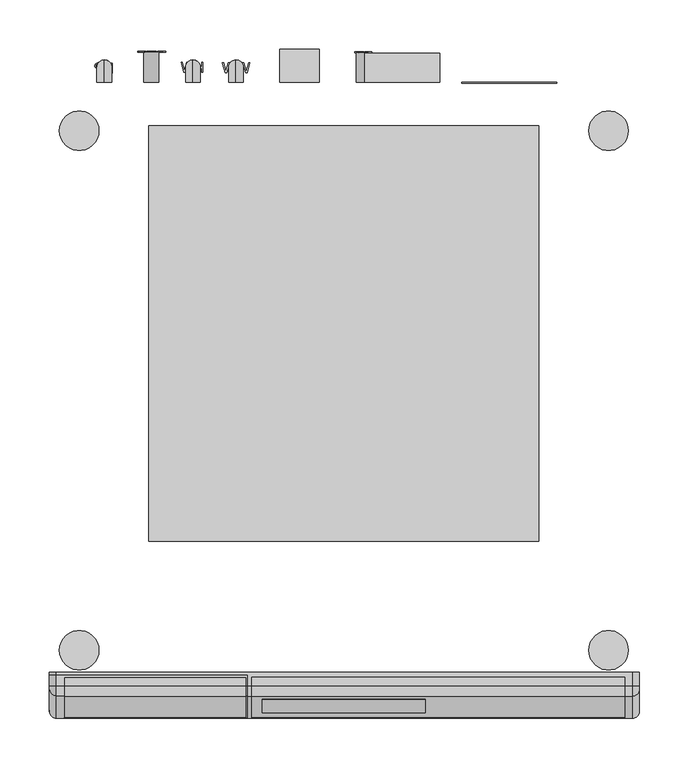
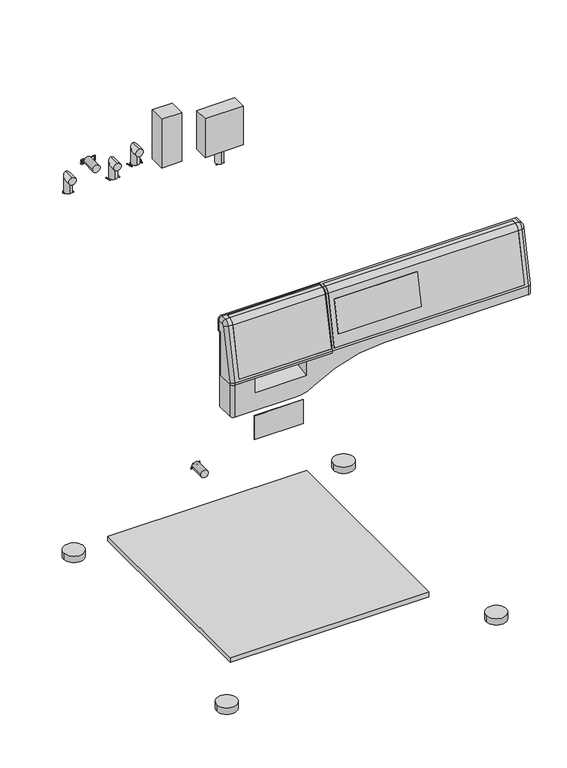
"""IFC4 building model written with IfcOpenShell, lengths in millimetres: proxy geometry, 11137250_RU_PWM507DP_LW : 51507151_RU_11137250_PWM507DP_LW."""

from ifc_helpers import new_model, si_unit, point, frame, frame_2d, origin, origin_with_axes, place, context, project, spatial, polyline, circle_curve, ellipse_curve, trimmed, segment, composite_curve, outline, extrude, source, transform, mapped, element, save
from ifc_brep_helpers import plane_surface, cylinder_surface, revolved_surface, advanced_brep


def specialty_equipment_1d82cdd6(model_context):
    return source(origin(), model_context, "Body", "SolidModel", [
        advanced_brep(
        [(-297.5, -634.5, 819.0), (-297.5, -640.0, 819.0), (-297.5, -640.0, 727.0), (-297.5, -671.0, 727.0), (-297.5, -671.0, 730.2642704), (-297.5, -648.6353607, 835.4816256), (-297.5, -644.8274781, 838.6486082), (-297.5, -634.5, 838.9190427), (-97.5, -655.4823939, 836.9370075), (-97.5, -678.0, 731.0), (-97.5, -678.0, 727.0), (-97.5, -640.0, 727.0), (-97.5, -640.0, 819.0), (-97.5, -634.5, 819.0), (-97.5, -634.5, 845.9214422), (-97.5, -645.0107168, 845.6462094), (-98.5, -655.4823939, 836.9370075), (-98.5, -677.1497738, 735.0), (-282.5, -677.1497738, 735.0), (-282.5, -655.4823939, 836.9370075), (-290.5, -655.4823939, 836.9370075), (-290.5, -678.0, 731.0), (-290.5, -678.0, 727.0), (-290.5, -634.5, 845.9214422), (-290.5, -645.0107168, 845.6462094), (-282.5, -645.0107168, 845.6462094), (-282.5, -636.5, 845.8690704), (-98.5, -636.5, 845.8690704), (-98.5, -645.0107168, 845.6462094), (-98.5, -654.5042463, 836.7290958), (-98.5, -676.1274332, 735.0), (-98.5, -636.5, 844.8687276), (-98.5, -644.9845398, 844.6465521), (-282.5, -654.5042463, 836.7290958), (-282.5, -644.9845398, 844.6465521), (-282.5, -636.5, 844.8687276), (-282.5, -676.1274332, 735.0)],
        [
            (0, 1),
            (1, 2),
            (2, 3),
            (3, 4),
            (4, 5),
            (5, 6, circle_curve(frame((-297.5, -644.7227703, 834.6499789), z_axis=(-1.0, 0.0, 0.0), x_axis=(0.0, -0.978147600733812, 0.20791169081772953)), 4.0)),
            (6, 7),
            (7, 0),
            (8, 9),
            (9, 10),
            (10, 11),
            (11, 12),
            (12, 13),
            (13, 14),
            (14, 15),
            (15, 8, circle_curve(frame((-97.5, -644.7227703, 834.6499789), z_axis=(1.0, 0.0, 0.0), x_axis=(0.0, 1.0, 0.0)), 11.0)),
            (8, 16),
            (16, 17),
            (17, 18),
            (18, 19),
            (19, 20),
            (20, 21),
            (21, 9),
            (21, 22),
            (22, 10),
            (22, 3, circle_curve(frame((-290.5, -671.0, 727.0), z_axis=(0.0, 0.0, -1.0), x_axis=(0.0, 1.0, 0.0)), 7.0)),
            (2, 11),
            (1, 12),
            (0, 13),
            (7, 23, ellipse_curve(frame((-290.5, -634.5, 838.9190427), z_axis=(0.0, 1.0, 0.0), x_axis=(0.0, 0.0, 1.0)), 7.0023995, 7.0)),
            (23, 14),
            (23, 24),
            (24, 25),
            (25, 26),
            (26, 27),
            (27, 28),
            (28, 15),
            (28, 16, circle_curve(frame((-98.5, -644.7227703, 834.6499789), z_axis=(1.0, 0.0, 0.0), x_axis=(0.0, 1.0, 0.0)), 11.0)),
            (19, 25, circle_curve(frame((-282.5, -644.7227703, 834.6499789), z_axis=(-1.0, 0.0, 0.0), x_axis=(0.0, 1.0, 0.0)), 11.0)),
            (24, 20, circle_curve(frame((-290.5, -644.7227703, 834.6499789), z_axis=(1.0, 0.0, 0.0), x_axis=(0.0, 1.0, 0.0)), 11.0)),
            (29, 30),
            (30, 17),
            (27, 31),
            (31, 32),
            (32, 29, circle_curve(frame((-98.5, -644.7227703, 834.6499789), z_axis=(1.0, 0.0, 0.0), x_axis=(0.0, 1.0, 0.0)), 10.0)),
            (33, 34, circle_curve(frame((-282.5, -644.7227703, 834.6499789), z_axis=(-1.0, 0.0, 0.0), x_axis=(0.0, 1.0, 0.0)), 10.0)),
            (34, 35),
            (35, 26),
            (18, 36),
            (36, 33),
            (29, 33),
            (36, 30),
            (32, 34),
            (31, 35),
            (6, 24, circle_curve(frame((-290.5, -644.8274781, 838.6486082), z_axis=(0.0, 0.9996573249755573, 0.026176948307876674), x_axis=(0.0, 0.026176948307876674, -0.9996573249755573)), 7.0)),
            (21, 4, ellipse_curve(frame((-290.5, -671.0, 730.2642704), z_axis=(0.0, -0.10452846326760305, -0.9945218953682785), x_axis=(0.0, -0.9945218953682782, 0.1045284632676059)), 7.038558, 7.0)),
            (20, 5, circle_curve(frame((-290.5, -648.6353607, 835.4816256), z_axis=(0.0, -0.2079116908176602, -0.9781476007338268), x_axis=(0.0, 0.9781476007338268, -0.2079116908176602)), 7.0)),
        ],
        [
            plane_surface(frame((-297.5, -655.4823939, 836.9370075), z_axis=(-1.0, 0.0, 0.0), x_axis=(0.0, 0.20791169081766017, 0.9781476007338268))),
            plane_surface(frame((-97.5, -655.4823939, 836.9370075), z_axis=(1.0, 0.0, 0.0), x_axis=(0.0, -0.20791169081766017, -0.9781476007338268))),
            plane_surface(frame((-97.5, -655.4823939, 836.9370075), z_axis=(0.0, -0.9781476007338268, 0.20791169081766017), x_axis=(-1.0, 0.0, 0.0))),
            plane_surface(frame((-97.5, -678.0, 731.0), z_axis=(0.0, -1.0, 0.0), x_axis=(-1.0, 0.0, 0.0))),
            plane_surface(frame((-97.5, -678.0, 727.0), z_axis=(0.0, 0.0, -1.0), x_axis=(-1.0, 0.0, 0.0))),
            plane_surface(frame((-97.5, -640.0, 727.0), z_axis=(0.0, 1.0, 0.0), x_axis=(-1.0, 0.0, 0.0))),
            plane_surface(frame((-97.5, -640.0, 819.0), z_axis=(0.0, 0.0, -1.0), x_axis=(-1.0, 0.0, 0.0))),
            plane_surface(frame((-97.5, -634.5, 819.0), z_axis=(0.0, 1.0, 0.0), x_axis=(-1.0, 0.0, 0.0))),
            plane_surface(frame((-97.5, -634.5, 845.9214422), z_axis=(0.0, -0.02617694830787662, 0.9996573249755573), x_axis=(-1.0, 0.0, 0.0))),
            cylinder_surface(frame((-297.5, -644.7227703, 834.6499789), z_axis=(1.0, 0.0, 0.0), x_axis=(0.0, 1.0, 0.0)), 11.0),
            plane_surface(frame((-98.5, -634.7227703, 834.6499789), z_axis=(-1.0, 0.0, 0.0), x_axis=(0.0, 0.0, -1.0))),
            plane_surface(frame((-282.5, -634.7227703, 834.6499789), z_axis=(1.0, 0.0, 0.0), x_axis=(0.0, 0.0, 1.0))),
            plane_surface(frame((-98.5, -676.1274332, 735.0), z_axis=(0.0, -0.9781476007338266, 0.2079116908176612), x_axis=(-1.0, 0.0, 0.0))),
            cylinder_surface(frame((-282.5, -644.7227703, 834.6499789), z_axis=(-1.0, 0.0, 0.0), x_axis=(0.0, 1.0, 0.0)), 10.0),
            plane_surface(frame((-98.5, -644.9845398, 844.6465521), z_axis=(0.0, -0.026176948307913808, 0.9996573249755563), x_axis=(-1.0, 0.0, 0.0))),
            plane_surface(frame((-98.5, -636.5, 844.8687276), z_axis=(0.0, -1.0, 0.0), x_axis=(-1.0, 0.0, 0.0))),
            plane_surface(frame((-98.5, -677.1497738, 735.0), z_axis=(0.0, 0.0, 1.0), x_axis=(-1.0, 0.0, 0.0))),
            cylinder_surface(frame((-290.5, -644.8274781, 838.6486082), z_axis=(0.0, 0.9996573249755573, 0.026176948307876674), x_axis=(0.0, 0.026176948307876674, -0.9996573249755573)), 7.0),
            cylinder_surface(frame((-290.5, -671.0, 727.0), z_axis=(0.0, 0.0, 1.0), x_axis=(0.0, 1.0, 0.0)), 7.0),
            cylinder_surface(frame((-290.5, -671.1529668, 729.5446182), z_axis=(0.0, 0.2079116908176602, 0.9781476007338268), x_axis=(0.0, 0.9781476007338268, -0.2079116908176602)), 7.0),
            revolved_surface(trimmed(ellipse_curve(frame((-290.5, -648.6353607, 835.4816256), z_axis=(0.0, -0.20791169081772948, -0.978147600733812), x_axis=(0.0, 0.978147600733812, -0.20791169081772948)), 7.0, 7.0), [point((-290.5, -655.4823939, 836.9370075))], [point((-297.5, -648.6353607, 835.4816256))], True, "CARTESIAN"), (-297.5, -644.7227703, 834.6499789), (-1.0, 0.0, 0.0)),
        ],
        [
            (0, [[1, 2, 3, 4, 5, 6, 7, 8]]),
            (1, [[9, 10, 11, 12, 13, 14, 15, 16]]),
            (2, [[-9, 17, 18, 19, 20, 21, 22, 23]]),
            (3, [[-10, -23, 24, 25]]),
            (4, [[-11, -25, 26, -3, 27]]),
            (5, [[-2, 28, -12, -27]]),
            (6, [[-1, 29, -13, -28]]),
            (7, [[-14, -29, -8, 30, 31]]),
            (8, [[-15, -31, 32, 33, 34, 35, 36, 37]]),
            (9, [[-16, -37, 38, -17]]),
            (9, [[39, -33, 40, -21]]),
            (10, [[41, 42, -18, -38, -36, 43, 44, 45]]),
            (11, [[46, 47, 48, -34, -39, -20, 49, 50]]),
            (12, [[-41, 51, -50, 52]]),
            (13, [[-45, 53, -46, -51]]),
            (14, [[-44, 54, -47, -53]]),
            (15, [[-43, -35, -48, -54]]),
            (16, [[-42, -52, -49, -19]]),
            (17, [[55, -32, -30, -7]]),
            (18, [[56, -4, -26, -24]]),
            (19, [[-56, -22, 57, -5]]),
            (20, [[-57, -40, -55, -6]]),
        ],
    ),
        extrude(outline(polyline([(-671.2386322, 758.0), (-672.2609728, 758.0), (-658.4447963, 823.0), (-657.4224557, 823.0), (-671.2386322, 758.0)])), frame((-82.5, 0.0, 0.0), z_axis=(1.0, 0.0, 0.0), x_axis=(0.0, 1.0, 0.0)), (0.0, 0.0, 1.0), 165.0),
        advanced_brep(
        [(284.0, -654.5042463, 836.7290958), (284.0, -644.9845398, 844.6465521), (284.0, -636.5, 844.8687276), (284.0, -636.5, 845.8690704), (284.0, -645.0107168, 845.6462094), (284.0, -655.4823939, 836.9370075), (284.0, -677.1497738, 735.0), (284.0, -676.1274332, 735.0), (-93.0, -654.5042463, 836.7290958), (-93.0, -676.1274332, 735.0), (-93.0, -677.1497738, 735.0), (-93.0, -655.4823939, 836.9370075), (-93.0, -645.0107168, 845.6462094), (-93.0, -636.5, 845.8690704), (-93.0, -636.5, 844.8687276), (-93.0, -644.9845398, 844.6465521), (82.5, -658.4447963, 823.0), (82.5, -672.2609728, 758.0), (-82.5, -672.2609728, 758.0), (-82.5, -658.4447963, 823.0), (82.5, -671.2386322, 758.0), (82.5, -657.4224557, 823.0), (-82.5, -657.4224557, 823.0), (-82.5, -671.2386322, 758.0)],
        [
            (0, 1, circle_curve(frame((284.0, -644.7227703, 834.6499789), z_axis=(-1.0, 0.0, 0.0), x_axis=(0.0, 1.0, 0.0)), 10.0)),
            (1, 2),
            (2, 3),
            (3, 4),
            (4, 5, circle_curve(frame((284.0, -644.7227703, 834.6499789), z_axis=(1.0, 0.0, 0.0), x_axis=(0.0, 1.0, 0.0)), 11.0)),
            (5, 6),
            (6, 7),
            (7, 0),
            (8, 9),
            (9, 10),
            (10, 11),
            (11, 12, circle_curve(frame((-93.0, -644.7227703, 834.6499789), z_axis=(-1.0, 0.0, 0.0), x_axis=(0.0, 1.0, 0.0)), 11.0)),
            (12, 13),
            (13, 14),
            (14, 15),
            (15, 8, circle_curve(frame((-93.0, -644.7227703, 834.6499789), z_axis=(1.0, 0.0, 0.0), x_axis=(0.0, 1.0, 0.0)), 10.0)),
            (0, 8),
            (15, 1),
            (14, 2),
            (13, 3),
            (12, 4),
            (11, 5),
            (10, 6),
            (16, 17),
            (17, 18),
            (18, 19),
            (19, 16),
            (9, 7),
            (20, 21),
            (21, 22),
            (22, 23),
            (23, 20),
            (20, 17),
            (16, 21),
            (22, 19),
            (18, 23),
        ],
        [
            plane_surface(frame((284.0, -634.7227703, 834.6499789), z_axis=(1.0, 0.0, 0.0), x_axis=(0.0, 0.0, -1.0))),
            plane_surface(frame((-93.0, -634.7227703, 834.6499789), z_axis=(-1.0, 0.0, 0.0), x_axis=(0.0, 0.0, 1.0))),
            revolved_surface(polyline([(-93.0, -634.7227703, 834.6499789), (284.0, -634.7227703, 834.6499789)]), (-93.0, -644.7227703, 834.6499789), (-1.0, 0.0, 0.0)),
            plane_surface(frame((284.0, -644.9845398, 844.6465521), z_axis=(0.0, 0.02617694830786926, -0.9996573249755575), x_axis=(-1.0, 0.0, 0.0))),
            plane_surface(frame((284.0, -636.5, 844.8687276), z_axis=(0.0, 1.0, 0.0), x_axis=(-1.0, 0.0, 0.0))),
            plane_surface(frame((284.0, -636.5, 845.8690704), z_axis=(0.0, -0.026176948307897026, 0.9996573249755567), x_axis=(-1.0, 0.0, 0.0))),
            cylinder_surface(frame((-93.0, -644.7227703, 834.6499789), z_axis=(1.0, 0.0, 0.0), x_axis=(0.0, 1.0, 0.0)), 11.0),
            plane_surface(frame((284.0, -655.4823939, 836.9370075), z_axis=(0.0, -0.9781476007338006, 0.20791169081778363), x_axis=(-1.0, 0.0, 0.0))),
            plane_surface(frame((284.0, -677.1497738, 735.0), z_axis=(0.0, 0.0, -1.0), x_axis=(-1.0, 0.0, 0.0))),
            plane_surface(frame((284.0, -676.1274332, 735.0), z_axis=(0.0, 0.9781476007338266, -0.2079116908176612), x_axis=(-1.0, 0.0, 0.0))),
            plane_surface(frame((82.5, -658.4447963, 823.0), z_axis=(-1.0, 0.0, 0.0), x_axis=(0.0, -1.0, 0.0))),
            plane_surface(frame((-82.5, -658.4447963, 823.0), z_axis=(1.0, 0.0, 0.0), x_axis=(0.0, 1.0, 0.0))),
            plane_surface(frame((82.5, -657.4224557, 823.0), z_axis=(0.0, 0.0, -1.0), x_axis=(-1.0, 0.0, 0.0))),
            plane_surface(frame((82.5, -672.2609728, 758.0), z_axis=(0.0, 0.0, 1.0), x_axis=(-1.0, 0.0, 0.0))),
        ],
        [
            (0, [[1, 2, 3, 4, 5, 6, 7, 8]]),
            (1, [[9, 10, 11, 12, 13, 14, 15, 16]]),
            (2, [[-1, 17, -16, 18]]),
            (3, [[-2, -18, -15, 19]]),
            (4, [[-3, -19, -14, 20]]),
            (5, [[-4, -20, -13, 21]]),
            (6, [[-5, -21, -12, 22]]),
            (7, [[-6, -22, -11, 23], [24, 25, 26, 27]]),
            (8, [[-7, -23, -10, 28]]),
            (9, [[-8, -28, -9, -17], [29, 30, 31, 32]]),
            (10, [[33, -24, 34, -29]]),
            (11, [[35, -26, 36, -31]]),
            (12, [[-34, -27, -35, -30]]),
            (13, [[-33, -32, -36, -25]]),
        ],
    ),
        advanced_brep(
        [(298.5, -637.0, 816.0), (298.5, -631.5, 816.0), (298.5, -631.5, 838.9976005), (298.5, -644.8274781, 838.6486082), (298.5, -648.6353607, 835.4816256), (298.5, -671.0, 730.2642704), (298.5, -671.0, 713.0), (298.5, -637.0, 713.0), (-297.5, -637.0, 816.0), (-297.5, -637.0, 660.0), (-297.5, -671.0, 660.0), (-297.5, -671.0, 727.0), (-297.5, -640.0, 727.0), (-297.5, -640.0, 819.0), (-297.5, -634.5, 819.0), (-297.5, -634.5, 838.9190427), (-297.5, -631.5, 838.9976005), (-297.5, -631.5, 816.0), (-290.5, -631.5, 846.0), (291.5, -631.5, 846.0), (284.0, -636.5, 845.8690704), (284.0, -645.0107168, 845.6462094), (291.5, -645.0107168, 845.6462094), (-290.5, -634.5, 845.9214422), (-97.5, -634.5, 845.9214422), (-97.5, -645.0107168, 845.6462094), (-93.0, -645.0107168, 845.6462094), (-93.0, -636.5, 845.8690704), (284.0, -655.4823939, 836.9370075), (291.5000072, -655.4823939, 836.9370075), (-93.0, -655.4823939, 836.9370075), (-97.5, -655.4823939, 836.9370075), (284.0, -677.1497738, 735.0), (-93.0, -677.1497738, 735.0), (-97.5, -678.0, 731.0), (291.5, -678.0, 731.0), (-97.5, -678.0, 727.0), (-148.5, -678.0, 727.0), (-148.5, -678.0, 697.0), (-251.5, -678.0, 697.0), (-251.5, -678.0, 727.0), (-290.5, -678.0, 727.0), (-290.5, -678.0, 660.0), (-170.6302935, -678.0, 660.0), (-135.780818, -678.0, 670.5165354), (5.0, -678.0, 713.0), (291.5, -678.0, 713.0), (-170.6302935, -637.0, 660.0), (5.0, -637.0, 713.0), (-135.780818, -637.0, 670.5165354), (284.0, -636.5, 844.8687276), (284.0, -644.9845398, 844.6465521), (284.0, -654.5042463, 836.7290958), (284.0, -676.1274332, 735.0), (-93.0, -676.1274332, 735.0), (-93.0, -654.5042463, 836.7290958), (-93.0, -644.9845398, 844.6465521), (-93.0, -636.5, 844.8687276), (-97.5, -634.5, 819.0), (-97.5, -640.0, 819.0), (-97.5, -640.0, 727.0), (-148.5, -640.0, 727.0), (-251.5, -640.0, 727.0), (-251.5, -640.0, 703.7004253), (-148.5, -640.0, 703.7004253)],
        [
            (0, 1),
            (1, 2),
            (2, 3),
            (3, 4, circle_curve(frame((298.5, -644.7227703, 834.6499789), z_axis=(1.0, 0.0, 0.0), x_axis=(0.0, -0.02617694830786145, 0.9996573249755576)), 4.0)),
            (4, 5),
            (5, 6),
            (6, 7),
            (7, 0),
            (8, 9),
            (9, 10),
            (10, 11),
            (11, 12),
            (12, 13),
            (13, 14),
            (14, 15),
            (15, 16),
            (16, 17),
            (17, 8),
            (0, 8),
            (17, 1),
            (16, 18, ellipse_curve(frame((-290.5, -631.5, 838.9976005), z_axis=(0.0, 1.0, 0.0), x_axis=(0.0, 0.0, 0.9999999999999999)), 7.0023995, 7.0)),
            (18, 19),
            (19, 2, ellipse_curve(frame((291.5, -631.5, 838.9976005), z_axis=(0.0, 1.0, 0.0), x_axis=(0.0, 0.0, -1.0)), 7.0023995, 7.0)),
            (20, 21),
            (21, 22),
            (22, 19),
            (18, 23),
            (23, 24),
            (24, 25),
            (25, 26),
            (26, 27),
            (27, 20),
            (21, 28, circle_curve(frame((284.0, -644.7227703, 834.6499789), z_axis=(1.0, 0.0, 0.0), x_axis=(0.0, 1.0, 0.0)), 11.0)),
            (28, 29),
            (29, 22, circle_curve(frame((291.5, -644.7227703, 834.6499789), z_axis=(-1.0, 0.0, 0.0), x_axis=(0.0, 1.0, 0.0)), 11.0)),
            (30, 26, circle_curve(frame((-93.0, -644.7227703, 834.6499789), z_axis=(-1.0, 0.0, 0.0), x_axis=(0.0, 1.0, 0.0)), 11.0)),
            (25, 31, circle_curve(frame((-97.5, -644.7227703, 834.6499789), z_axis=(1.0, 0.0, 0.0), x_axis=(0.0, 1.0, 0.0)), 11.0)),
            (31, 30),
            (28, 32),
            (32, 33),
            (33, 30),
            (31, 34),
            (34, 35),
            (35, 29),
            (34, 36),
            (36, 37),
            (37, 38),
            (38, 39),
            (39, 40),
            (40, 41),
            (41, 42),
            (42, 43),
            (43, 44, circle_curve(frame((-170.6302935, -678.0, 723.0), z_axis=(0.0, -1.0, 0.0), x_axis=(1.0, 0.0, 0.0)), 63.0)),
            (44, 45, circle_curve(frame((5.0, -678.0, 458.5), z_axis=(0.0, 1.0, 0.0), x_axis=(1.0, 0.0, 0.0)), 254.5)),
            (45, 46),
            (46, 35),
            (9, 47),
            (47, 43),
            (42, 10, circle_curve(frame((-290.5, -671.0, 660.0), z_axis=(0.0, 0.0, -1.0), x_axis=(0.0, 1.0, 0.0)), 7.0)),
            (7, 48),
            (48, 49, circle_curve(frame((5.0, -637.0, 458.5), z_axis=(0.0, -1.0, 0.0), x_axis=(1.0, 0.0, 0.0)), 254.5)),
            (49, 47, circle_curve(frame((-170.6302935, -637.0, 723.0), z_axis=(0.0, 1.0, 0.0), x_axis=(1.0, 0.0, 0.0)), 63.0)),
            (20, 50),
            (50, 51),
            (51, 52, circle_curve(frame((284.0, -644.7227703, 834.6499789), z_axis=(1.0, 0.0, 0.0), x_axis=(0.0, 1.0, 0.0)), 10.0)),
            (52, 53),
            (53, 32),
            (33, 54),
            (54, 55),
            (55, 56, circle_curve(frame((-93.0, -644.7227703, 834.6499789), z_axis=(-1.0, 0.0, 0.0), x_axis=(0.0, 1.0, 0.0)), 10.0)),
            (56, 57),
            (57, 27),
            (53, 54),
            (52, 55),
            (51, 56),
            (50, 57),
            (24, 58),
            (58, 59),
            (59, 60),
            (60, 36),
            (60, 61),
            (61, 37),
            (62, 12),
            (11, 41, circle_curve(frame((-290.5, -671.0, 727.0), z_axis=(0.0, 0.0, 1.0), x_axis=(0.0, 1.0, 0.0)), 7.0)),
            (40, 62),
            (59, 13),
            (62, 63),
            (63, 64),
            (64, 61),
            (58, 14),
            (23, 15, ellipse_curve(frame((-290.5, -634.5, 838.9190427), z_axis=(0.0, -1.0, 0.0), x_axis=(0.0, 0.0, 0.9999999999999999)), 7.0023995, 7.0)),
            (64, 38),
            (39, 63),
            (22, 3, circle_curve(frame((291.5, -644.8274781, 838.6486082), z_axis=(0.0, 0.9996573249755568, 0.02617694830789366), x_axis=(1.0, 0.0, 0.0)), 7.0)),
            (29, 4, circle_curve(frame((291.5, -648.6353607, 835.4816256), z_axis=(0.0, 0.20791169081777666, 0.9781476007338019), x_axis=(1.0, 0.0, 0.0)), 7.0)),
            (35, 5, ellipse_curve(frame((291.5, -671.0, 730.2642704), z_axis=(0.0, 0.10452846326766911, 0.9945218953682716), x_axis=(0.0, -0.9945218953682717, 0.10452846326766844)), 7.038558, 7.0)),
            (46, 6, circle_curve(frame((291.5, -671.0, 713.0), z_axis=(0.0, 0.0, 1.0), x_axis=(1.0, 0.0, 0.0)), 7.0)),
            (45, 48),
            (44, 49),
        ],
        [
            plane_surface(frame((298.5, -631.5, 816.0), z_axis=(1.0, 0.0, 0.0), x_axis=(0.0, 1.0, 0.0))),
            plane_surface(frame((-297.5, -631.5, 816.0), z_axis=(-1.0, 0.0, 0.0), x_axis=(0.0, -1.0, 0.0))),
            plane_surface(frame((298.5, -637.0, 816.0), z_axis=(0.0, 0.0, -1.0), x_axis=(-1.0, 0.0, 0.0))),
            plane_surface(frame((298.5, -631.5, 816.0), z_axis=(0.0, 1.0, 0.0), x_axis=(-1.0, 0.0, 0.0))),
            plane_surface(frame((298.5, -631.5, 846.0), z_axis=(0.0, -0.026176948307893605, 0.9996573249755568), x_axis=(-1.0, 0.0, 0.0))),
            cylinder_surface(frame((-297.5, -644.7227703, 834.6499789), z_axis=(1.0, 0.0, 0.0), x_axis=(0.0, 1.0, 0.0)), 11.0),
            plane_surface(frame((298.5, -655.4823939, 836.9370075), z_axis=(0.0, -0.9781476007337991, 0.20791169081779), x_axis=(-1.0, 0.0, 0.0))),
            plane_surface(frame((298.5, -678.0, 731.0), z_axis=(0.0, -1.0, 0.0), x_axis=(-1.0, 0.0, 0.0))),
            plane_surface(frame((298.5, -678.0, 660.0), z_axis=(0.0, 0.0, -1.0), x_axis=(-1.0, 0.0, 0.0))),
            plane_surface(frame((298.5, -637.0, 660.0), z_axis=(0.0, 1.0, 0.0), x_axis=(-1.0, 0.0, 0.0))),
            plane_surface(frame((284.0, -677.1497738, 735.0), z_axis=(-1.0, 0.0, 0.0), x_axis=(0.0, 1.0, 0.0))),
            plane_surface(frame((-93.0, -677.1497738, 735.0), z_axis=(1.0, 0.0, 0.0), x_axis=(0.0, -1.0, 0.0))),
            plane_surface(frame((284.0, -677.1497738, 735.0), z_axis=(0.0, 0.0, 1.0), x_axis=(-1.0, 0.0, 0.0))),
            plane_surface(frame((284.0, -676.1274332, 735.0), z_axis=(0.0, -0.9781476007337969, 0.20791169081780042), x_axis=(-1.0, 0.0, 0.0))),
            cylinder_surface(frame((-93.0, -644.7227703, 834.6499789), z_axis=(-1.0, 0.0, 0.0), x_axis=(0.0, 1.0, 0.0)), 10.0),
            plane_surface(frame((284.0, -644.9845398, 844.6465521), z_axis=(0.0, -0.026176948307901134, 0.9996573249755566), x_axis=(-1.0, 0.0, 0.0))),
            plane_surface(frame((284.0, -636.5, 844.8687276), z_axis=(0.0, -1.0, 0.0), x_axis=(-1.0, 0.0, 0.0))),
            plane_surface(frame((-97.5, -678.0, 727.0), z_axis=(-1.0, 0.0, 0.0), x_axis=(0.0, 1.0, 0.0))),
            plane_surface(frame((-97.5, -678.0, 727.0), z_axis=(0.0, 0.0, 1.0), x_axis=(-1.0, 0.0, 0.0))),
            plane_surface(frame((-97.5, -640.0, 727.0), z_axis=(0.0, -1.0, 0.0), x_axis=(-1.0, 0.0, 0.0))),
            plane_surface(frame((-97.5, -640.0, 819.0), z_axis=(0.0, 0.0, 1.0), x_axis=(-1.0, 0.0, 0.0))),
            plane_surface(frame((-97.5, -634.5, 819.0), z_axis=(0.0, -1.0, 0.0), x_axis=(-1.0, 0.0, 0.0))),
            plane_surface(frame((-148.5, -678.0, 697.0), z_axis=(-1.0000000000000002, 0.0, 0.0), x_axis=(0.0, 0.9848077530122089, 0.17364817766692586))),
            plane_surface(frame((-251.5, -678.0, 697.0), z_axis=(1.0000000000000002, 0.0, 0.0), x_axis=(0.0, -0.9848077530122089, -0.17364817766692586))),
            plane_surface(frame((-148.5, -678.0, 697.0), z_axis=(0.0, -0.17364817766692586, 0.9848077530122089), x_axis=(-1.0, 0.0, 0.0))),
            cylinder_surface(frame((-290.5, -671.0, 660.0), z_axis=(0.0, 0.0, 1.0), x_axis=(0.0, 1.0, 0.0)), 7.0),
            cylinder_surface(frame((-290.5, -644.8274781, 838.6486082), z_axis=(0.0, 0.9996573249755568, 0.02617694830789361), x_axis=(0.0, 0.02617694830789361, -0.9996573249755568)), 7.0),
            cylinder_surface(frame((291.5, -631.3167614, 839.0023987), z_axis=(0.0, -0.9996573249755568, -0.02617694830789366), x_axis=(1.0, 0.0, 0.0)), 7.0),
            revolved_surface(trimmed(ellipse_curve(frame((291.5, -644.8274781, 838.6486082), z_axis=(0.0, 0.9996573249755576, 0.026176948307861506), x_axis=(1.0, 0.0, 0.0)), 7.0, 7.0), [point((291.5, -645.0107168, 845.6462094))], [point((298.5, -644.8274781, 838.6486082))], True, "CARTESIAN"), (298.5, -644.7227703, 834.6499789), (1.0, 0.0, 0.0)),
            cylinder_surface(frame((291.5, -648.6353607, 835.4816256), z_axis=(0.0, -0.20791169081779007, -0.9781476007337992), x_axis=(1.0, 0.0, 0.0)), 7.0),
            cylinder_surface(frame((291.5, -671.0, 731.0), z_axis=(0.0, 0.0, -1.0), x_axis=(1.0, 0.0, 0.0)), 7.0),
            plane_surface(frame((298.5, -678.0, 713.0), z_axis=(0.0, 0.0, -1.0), x_axis=(0.0, 1.0, 0.0))),
            revolved_surface(polyline([(259.5, -678.0, 458.5), (259.5, -637.0, 458.5)]), (5.0, -637.0, 458.5), (0.0, -1.0, 0.0)),
            cylinder_surface(frame((-170.6302935, -637.0, 723.0), z_axis=(0.0, 1.0, 0.0), x_axis=(1.0, 0.0, 0.0)), 63.0),
        ],
        [
            (0, [[1, 2, 3, 4, 5, 6, 7, 8]]),
            (1, [[9, 10, 11, 12, 13, 14, 15, 16, 17, 18]]),
            (2, [[-1, 19, -18, 20]]),
            (3, [[-20, -17, 21, 22, 23, -2]]),
            (4, [[24, 25, 26, -22, 27, 28, 29, 30, 31, 32]]),
            (5, [[33, 34, 35, -25]]),
            (5, [[36, -30, 37, 38]]),
            (6, [[39, 40, 41, -38, 42, 43, 44, -34]]),
            (7, [[45, 46, 47, 48, 49, 50, 51, 52, 53, 54, 55, 56, -43]]),
            (8, [[-10, 57, 58, -52, 59]]),
            (9, [[-9, -19, -8, 60, 61, 62, -57]]),
            (10, [[63, 64, 65, 66, 67, -39, -33, -24]]),
            (11, [[68, 69, 70, 71, 72, -31, -36, -41]]),
            (12, [[-67, 73, -68, -40]]),
            (13, [[-66, 74, -69, -73]]),
            (14, [[-65, 75, -70, -74]]),
            (15, [[-64, 76, -71, -75]]),
            (16, [[-63, -32, -72, -76]]),
            (17, [[77, 78, 79, 80, -45, -42, -37, -29]]),
            (18, [[-80, 81, 82, -46]]),
            (18, [[83, -12, 84, -50, 85]]),
            (19, [[-79, 86, -13, -83, 87, 88, 89, -81]]),
            (20, [[-78, 90, -14, -86]]),
            (21, [[-77, -28, 91, -15, -90]]),
            (22, [[-89, 92, -47, -82]]),
            (23, [[93, -87, -85, -49]]),
            (24, [[-92, -88, -93, -48]]),
            (25, [[-11, -59, -51, -84]]),
            (26, [[-16, -91, -27, -21]]),
            (27, [[94, -3, -23, -26]]),
            (28, [[-94, -35, 95, -4]]),
            (29, [[-95, -44, 96, -5]]),
            (30, [[-96, -56, 97, -6]]),
            (31, [[98, -60, -7, -97, -55]]),
            (32, [[-98, -54, 99, -61]]),
            (33, [[-99, -53, -58, -62]]),
        ],
    ),
        extrude(outline(composite_curve([segment(polyline([(-676.1274332, 735.0), (-677.1497738, 735.0), (-655.4823939, 836.9370075)]), True, "CONTINUOUS"), segment(trimmed(circle_curve(frame_2d((-644.7227703, 834.6499789)), 11.0), [point((-655.4823939, 836.9370075))], [point((-645.0107168, 845.6462094))], False, "CARTESIAN"), True, "CONTINUOUS"), segment(polyline([(-645.0107168, 845.6462094), (-636.5, 845.8690704), (-636.5, 844.8687276), (-644.9845398, 844.6465521)]), True, "CONTINUOUS"), segment(trimmed(circle_curve(frame_2d((-644.7227703, 834.6499789)), 10.0), [point((-644.9845398, 844.6465521))], [point((-654.5042463, 836.7290958))], True, "CARTESIAN"), True, "CONTINUOUS"), segment(polyline([(-654.5042463, 836.7290958), (-676.1274332, 735.0)]), True, "CONTINUOUS")], self_intersect=False)), frame((-282.5, 0.0, 0.0), z_axis=(1.0, 0.0, 0.0), x_axis=(0.0, 1.0, 0.0)), (0.0, 0.0, 1.0), 184.0),
        advanced_brep(
        [(-242.0, -35.0, 740.5), (-242.0, -35.0, 755.5), (-242.0, -27.5, 740.5), (-242.0, -12.5, 755.5), (-242.0, -27.5, 718.0), (-242.0, -12.5, 718.0)],
        [
            (0, 1, circle_curve(frame((-242.0, -35.0, 748.0), z_axis=(0.0, -1.0, 0.0), x_axis=(0.0, 0.0, 1.0)), 7.5)),
            (1, 0, circle_curve(frame((-242.0, -35.0, 748.0), z_axis=(0.0, -1.0, 0.0), x_axis=(0.0, 0.0, 1.0)), 7.5)),
            (0, 2),
            (2, 3, ellipse_curve(frame((-242.0, -20.0, 748.0), z_axis=(0.0, -0.7071067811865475, 0.7071067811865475), x_axis=(0.0, -0.7071067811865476, -0.7071067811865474)), 10.6066017, 7.5)),
            (3, 1),
            (3, 2, ellipse_curve(frame((-242.0, -20.0, 748.0), z_axis=(0.0, -0.7071067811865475, 0.7071067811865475), x_axis=(0.0, -0.7071067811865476, -0.7071067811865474)), 10.6066017, 7.5)),
            (4, 5, circle_curve(frame((-242.0, -20.0, 718.0), z_axis=(0.0, 0.0, -1.0), x_axis=(0.0, 1.0, 0.0)), 7.5)),
            (5, 4, circle_curve(frame((-242.0, -20.0, 718.0), z_axis=(0.0, 0.0, -1.0), x_axis=(0.0, 1.0, 0.0)), 7.5)),
            (2, 4),
            (5, 3),
        ],
        [
            plane_surface(frame((-298.0, -35.0, 748.0), z_axis=(0.0, -1.0, 0.0), x_axis=(1.0, 0.0, 0.0))),
            cylinder_surface(frame((-242.0, -35.0, 748.0), z_axis=(0.0, -1.0, 0.0), x_axis=(0.0, 0.0, 1.0)), 7.5),
            plane_surface(frame((-298.0, -20.0, 718.0), z_axis=(0.0, 0.0, -1.0), x_axis=(1.0, 0.0, 0.0))),
            cylinder_surface(frame((-242.0, -20.0, 748.0), z_axis=(0.0, 0.0, 1.0), x_axis=(0.0, 1.0, 0.0)), 7.5),
        ],
        [
            (0, [[1, 2]]),
            (1, [[-1, 3, 4, 5]]),
            (1, [[-2, -5, 6, -3]]),
            (2, [[7, 8]]),
            (3, [[-4, 9, -8, 10]]),
            (3, [[-6, -10, -7, -9]]),
        ],
    ),
        extrude(outline(composite_curve([segment(trimmed(circle_curve(frame_2d((757.5, -194.5)), 7.5), [point((757.5, -187.0))], [point((757.5, -202.0))], False, "CARTESIAN"), True, "CONTINUOUS"), segment(trimmed(circle_curve(frame_2d((757.5, -194.5)), 7.5), [point((757.5, -202.0))], [point((757.5, -187.0))], False, "CARTESIAN"), True, "CONTINUOUS")], self_intersect=False)), frame((0.0, -35.0, 0.0), z_axis=(0.0, 1.0, 0.0), x_axis=(0.0, 0.0, 1.0)), (0.0, 0.0, 1.0), 30.0),
        extrude(outline(polyline([(752.5, -179.9815352), (762.545631, -179.9815352), (762.545631, -183.4469836), (762.4009308, -185.2397952), (761.6823346, -186.7162282), (759.965552, -187.9057134), (757.5767715, -188.3005734), (755.5497417, -188.0332458), (754.0867977, -187.3465327), (753.1756766, -186.4292803), (752.6716783, -185.2287587), (752.5, -183.6137568), (752.5, -179.9815352)]), holes=[polyline([(753.7557039, -181.2372391), (753.7557039, -183.4592463), (753.9371923, -185.0754745), (754.4497746, -186.0074423), (755.6968945, -186.7714105), (757.5963919, -187.0448695), (759.9753621, -186.5089881), (761.0888183, -185.2054595), (761.2899271, -183.4249107), (761.2899271, -181.2372391), (753.7557039, -181.2372391)])]), frame((0.0, -5.0, 0.0), z_axis=(0.0, 1.0, 0.0), x_axis=(0.0, 0.0, 1.0)), (0.0, 0.0, 1.0), 1.0),
        extrude(outline(polyline([(757.390378, -189.5562772), (761.2923797, -190.8953677), (762.702594, -194.3510059), (762.0404064, -196.8501509), (760.1936388, -198.5473132), (757.5056477, -199.1310193), (754.7808684, -198.5166564), (752.9610788, -196.7753483), (752.343037, -194.3436483), (753.0260713, -191.8175252), (754.8900067, -190.1301732), (757.390378, -189.5562772)]), holes=[polyline([(757.3781153, -190.8119811), (754.6091901, -191.816299), (753.5987409, -194.3362906), (754.6190003, -196.8783552), (757.5154579, -197.8753154), (759.5878598, -197.4485723), (760.9600596, -196.2014524), (761.4468901, -194.3583636), (760.508791, -191.8592185), (757.3781153, -190.8119811)])]), frame((0.0, -5.0, 0.0), z_axis=(0.0, 1.0, 0.0), x_axis=(0.0, 0.0, 1.0)), (0.0, 0.0, 1.0), 1.0),
        extrude(outline(polyline([(755.9531857, -200.3867232), (755.9531857, -201.6424271), (754.6962555, -202.0470973), (753.9016304, -203.0354736), (753.5987409, -204.5413372), (753.828054, -205.8534496), (754.4583585, -206.7008045), (755.3008083, -206.9791685), (756.0843969, -206.7707021), (756.654614, -205.9172158), (757.1340869, -204.0888423), (757.7533549, -202.1206737), (758.6877752, -201.0525896), (759.9361214, -200.7006492), (761.3573722, -201.1359762), (762.3604637, -202.4076216), (762.702594, -204.2691045), (762.3445222, -206.2556673), (761.2923797, -207.5800425), (759.7202973, -208.0779094), (759.7202973, -206.8222056), (761.0103368, -206.110967), (761.4468901, -204.3181554), (761.0152419, -202.5204388), (759.9729096, -201.956353), (759.1022555, -202.3561181), (758.4008272, -204.4064471), (757.7705227, -206.6284544), (756.7527159, -207.8436912), (755.3326914, -208.2348724), (753.8305065, -207.7848301), (752.7342182, -206.4898855), (752.343037, -204.5903881), (752.764875, -202.3475342), (754.0352942, -200.928736), (755.9531857, -200.3867232)])), frame((0.0, -5.0, 0.0), z_axis=(0.0, 1.0, 0.0), x_axis=(0.0, 0.0, 1.0)), (0.0, 0.0, 1.0), 1.0),
        advanced_brep(
        [(-152.5, -35.0, 739.0), (-152.5, -35.0, 754.0), (-152.5, -27.5, 739.0), (-152.5, -12.5, 754.0), (-152.5, -27.5, 716.5), (-152.5, -12.5, 716.5)],
        [
            (0, 1, circle_curve(frame((-152.5, -35.0, 746.5), z_axis=(0.0, -1.0, 0.0), x_axis=(0.0, 0.0, 1.0)), 7.5)),
            (1, 0, circle_curve(frame((-152.5, -35.0, 746.5), z_axis=(0.0, -1.0, 0.0), x_axis=(0.0, 0.0, 1.0)), 7.5)),
            (0, 2),
            (2, 3, ellipse_curve(frame((-152.5, -20.0, 746.5), z_axis=(0.0, -0.7071067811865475, 0.7071067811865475), x_axis=(0.0, -0.7071067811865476, -0.7071067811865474)), 10.6066017, 7.5)),
            (3, 1),
            (3, 2, ellipse_curve(frame((-152.5, -20.0, 746.5), z_axis=(0.0, -0.7071067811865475, 0.7071067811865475), x_axis=(0.0, -0.7071067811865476, -0.7071067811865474)), 10.6066017, 7.5)),
            (4, 5, circle_curve(frame((-152.5, -20.0, 716.5), z_axis=(0.0, 0.0, -1.0), x_axis=(0.0, 1.0, 0.0)), 7.5)),
            (5, 4, circle_curve(frame((-152.5, -20.0, 716.5), z_axis=(0.0, 0.0, -1.0), x_axis=(0.0, 1.0, 0.0)), 7.5)),
            (2, 4),
            (5, 3),
        ],
        [
            plane_surface(frame((-298.0, -35.0, 746.5), z_axis=(0.0, -1.0, 0.0), x_axis=(1.0, 0.0, 0.0))),
            cylinder_surface(frame((-152.5, -35.0, 746.5), z_axis=(0.0, -1.0, 0.0), x_axis=(0.0, 0.0, 1.0)), 7.5),
            plane_surface(frame((-298.0, -20.0, 716.5), z_axis=(0.0, 0.0, -1.0), x_axis=(1.0, 0.0, 0.0))),
            cylinder_surface(frame((-152.5, -20.0, 746.5), z_axis=(0.0, 0.0, 1.0), x_axis=(0.0, 1.0, 0.0)), 7.5),
        ],
        [
            (0, [[1, 2]]),
            (1, [[-1, 3, 4, 5]]),
            (1, [[-2, -5, 6, -3]]),
            (2, [[7, 8]]),
            (3, [[-4, 9, -8, 10]]),
            (3, [[-6, -10, -7, -9]]),
        ],
    ),
        advanced_brep(
        [(-109.0, -35.0, 753.5), (-109.0, -35.0, 768.5), (-109.0, -27.5, 753.5), (-109.0, -12.5, 768.5), (-109.0, -27.5, 731.0), (-109.0, -12.5, 731.0)],
        [
            (0, 1, circle_curve(frame((-109.0, -35.0, 761.0), z_axis=(0.0, -1.0, 0.0), x_axis=(0.0, 0.0, 1.0)), 7.5)),
            (1, 0, circle_curve(frame((-109.0, -35.0, 761.0), z_axis=(0.0, -1.0, 0.0), x_axis=(0.0, 0.0, 1.0)), 7.5)),
            (0, 2),
            (2, 3, ellipse_curve(frame((-109.0, -20.0, 761.0), z_axis=(0.0, -0.7071067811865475, 0.7071067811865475), x_axis=(0.0, -0.7071067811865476, -0.7071067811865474)), 10.6066017, 7.5)),
            (3, 1),
            (3, 2, ellipse_curve(frame((-109.0, -20.0, 761.0), z_axis=(0.0, -0.7071067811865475, 0.7071067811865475), x_axis=(0.0, -0.7071067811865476, -0.7071067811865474)), 10.6066017, 7.5)),
            (4, 5, circle_curve(frame((-109.0, -20.0, 731.0), z_axis=(0.0, 0.0, -1.0), x_axis=(0.0, 1.0, 0.0)), 7.5)),
            (5, 4, circle_curve(frame((-109.0, -20.0, 731.0), z_axis=(0.0, 0.0, -1.0), x_axis=(0.0, 1.0, 0.0)), 7.5)),
            (2, 4),
            (5, 3),
        ],
        [
            plane_surface(frame((-298.0, -35.0, 761.0), z_axis=(0.0, -1.0, 0.0), x_axis=(1.0, 0.0, 0.0))),
            cylinder_surface(frame((-109.0, -35.0, 761.0), z_axis=(0.0, -1.0, 0.0), x_axis=(0.0, 0.0, 1.0)), 7.5),
            plane_surface(frame((-298.0, -20.0, 731.0), z_axis=(0.0, 0.0, -1.0), x_axis=(1.0, 0.0, 0.0))),
            cylinder_surface(frame((-109.0, -20.0, 761.0), z_axis=(0.0, 0.0, 1.0), x_axis=(0.0, 1.0, 0.0)), 7.5),
        ],
        [
            (0, [[1, 2]]),
            (1, [[-1, 3, 4, 5]]),
            (1, [[-2, -5, 6, -3]]),
            (2, [[7, 8]]),
            (3, [[-4, 9, -8, 10]]),
            (3, [[-6, -10, -7, -9]]),
        ],
    ),
        extrude(outline(polyline([(-142.5237638, -25.0), (-143.7834134, -25.0), (-143.7834134, -21.5422104), (-145.4717236, -19.9295918), (-149.3062539, -24.9960047), (-150.8371057, -24.9960047), (-146.3635304, -19.0812626), (-150.682024, -14.9545468), (-148.9188384, -14.9545468), (-143.7734276, -19.8714576), (-143.7734276, -14.9547748), (-142.5237638, -14.9547748), (-142.5237638, -25.0)])), frame((0.0, 0.0, 715.5), z_axis=(0.0, 0.0, 1.0), x_axis=(1.0, 0.0, 0.0)), (0.0, 0.0, 1.0), 1.0),
        extrude(outline(polyline([(-153.5799346, -25.0), (-155.1013346, -25.0), (-157.6681659, -16.1680585), (-160.4132353, -25.0), (-161.7588291, -25.0), (-164.4977428, -14.9547748), (-163.1999912, -14.9547748), (-161.1258941, -23.5916213), (-158.6010837, -14.9547748), (-156.7331206, -14.9547748), (-154.2135942, -23.5959701), (-152.1412312, -14.9547748), (-150.8442078, -14.9547748), (-153.5799346, -25.0)])), frame((0.0, 0.0, 715.5), z_axis=(0.0, 0.0, 1.0), x_axis=(1.0, 0.0, 0.0)), (0.0, 0.0, 1.0), 1.0),
        extrude(outline(polyline([(-97.7677732, -25.6276222), (-99.2866418, -25.6276222), (-101.8572009, -16.7897083), (-104.60351, -25.6247434), (-105.9438154, -25.6247434), (-108.6845916, -15.5772781), (-107.3877267, -15.5772781), (-105.310674, -24.218418), (-102.7878261, -15.5770934), (-100.9207392, -15.5770934), (-98.4046917, -24.2181787), (-96.3224721, -15.5728546), (-95.0253096, -15.5728546), (-97.7677732, -25.6276222)])), frame((0.0, 0.0, 730.0), z_axis=(0.0, 0.0, 1.0), x_axis=(1.0, 0.0, 0.0)), (0.0, 0.0, 1.0), 1.0),
        extrude(outline(polyline([(-119.9168184, -25.6276222), (-122.659282, -15.5728546), (-121.3621195, -15.5728546), (-119.2799, -24.2181787), (-116.7638525, -15.5770934), (-114.8967656, -15.5770934), (-112.3739176, -24.218418), (-110.2968649, -15.5772781), (-109.0, -15.5772781), (-111.7407762, -25.6276222), (-113.0810816, -25.6276222), (-115.8273907, -16.7897083), (-118.3979499, -25.6276222), (-119.9168184, -25.6276222)])), frame((0.0, 0.0, 730.0), z_axis=(0.0, 0.0, 1.0), x_axis=(1.0, 0.0, 0.0)), (0.0, 0.0, 1.0), 1.0),
        extrude(outline(polyline([(119.0, -35.0), (215.0, -35.0), (215.0, -36.0), (119.0, -36.0), (119.0, -35.0)])), frame((0.0, 0.0, 80.0), z_axis=(0.0, 0.0, 1.0), x_axis=(1.0, 0.0, 0.0)), (0.0, 0.0, 1.0), 50.0),
        extrude(outline(polyline([(-25.0, -2.0), (-25.0, -35.0), (-65.0, -35.0), (-65.0, -2.0), (-25.0, -2.0)])), frame((0.0, 0.0, 714.0), z_axis=(0.0, 0.0, 1.0), x_axis=(1.0, 0.0, 0.0)), (0.0, 0.0, 1.0), 102.0),
        extrude(outline(composite_curve([segment(polyline([(37.0012365, 26.8350179), (37.0012365, 28.0926569), (47.0457018, 28.0926569), (47.0457018, 24.2588697)]), True, "CONTINUOUS"), segment(trimmed(circle_curve(frame_2d((44.0634182, 24.2588697)), 2.9822837), [point((47.0457018, 24.2588697))], [point((41.0811345, 24.2588697))], False, "CARTESIAN"), True, "CONTINUOUS"), segment(polyline([(41.0811345, 24.2588697), (41.0811345, 26.8350179), (37.0012365, 26.8350179)]), True, "CONTINUOUS")], self_intersect=False), holes=[composite_curve([segment(trimmed(circle_curve(frame_2d((44.0644309, 24.2588697)), 1.7264899), [point((42.3379411, 24.2588697))], [point((45.7909208, 24.2588697))], True, "CARTESIAN"), True, "CONTINUOUS"), segment(polyline([(45.7909208, 24.2588697), (45.7909208, 26.8350179), (42.3379411, 26.8350179), (42.3379411, 24.2588697)]), True, "CONTINUOUS")], self_intersect=False)]), frame((0.0, -5.0, 0.0), z_axis=(0.0, 1.0, 0.0), x_axis=(0.0, 0.0, 1.0)), (0.0, 0.0, 1.0), 1.0),
        extrude(outline(polyline([(37.0006445, 18.6718375), (37.0006445, 20.0), (47.0451716, 15.9923232), (47.0451716, 14.9218811), (37.0004865, 10.9106116), (37.0004865, 12.2393282), (40.1391224, 13.3892124), (40.1391224, 17.526368), (37.0006445, 18.6718375)]), holes=[polyline([(41.3966781, 13.8483756), (45.7905035, 15.4566766), (41.3966781, 17.0651073), (41.3966781, 13.8483756)])]), frame((0.0, -5.0, 0.0), z_axis=(0.0, 1.0, 0.0), x_axis=(0.0, 0.0, 1.0)), (0.0, 0.0, 1.0), 1.0),
        extrude(outline(composite_curve([segment(trimmed(circle_curve(frame_2d((42.0, 20.0)), 7.5), [point((42.0, 27.5))], [point((42.0, 12.5))], False, "CARTESIAN"), True, "CONTINUOUS"), segment(trimmed(circle_curve(frame_2d((42.0, 20.0)), 7.5), [point((42.0, 12.5))], [point((42.0, 27.5))], False, "CARTESIAN"), True, "CONTINUOUS")], self_intersect=False)), frame((0.0, -35.0, 0.0), z_axis=(0.0, 1.0, 0.0), x_axis=(0.0, 0.0, 1.0)), (0.0, 0.0, 1.0), 30.0),
        extrude(outline(polyline([(54.7566495, -26.4555134), (48.4761766, -26.4555134), (48.4761766, -25.1997667), (53.4981583, -25.1997667), (53.4981583, -16.4081759), (54.7566495, -16.4081759), (54.7566495, -26.4555134)])), frame((0.0, 0.0, 675.0), z_axis=(0.0, 0.0, 1.0), x_axis=(1.0, 0.0, 0.0)), (0.0, 0.0, 1.0), 1.0),
        extrude(outline(polyline([(64.0215267, -16.4081759), (64.0215267, -26.4554669), (56.6392877, -26.4554669), (56.6392877, -25.1995171), (62.7595964, -25.1995171), (62.7595964, -21.9031269), (57.1079823, -21.9031269), (57.1079823, -20.6478177), (62.7596269, -20.6478177), (62.7596269, -17.6653752), (56.7945524, -17.6653752), (56.7945524, -16.4081759), (64.0215267, -16.4081759)])), frame((0.0, 0.0, 675.0), z_axis=(0.0, 0.0, 1.0), x_axis=(1.0, 0.0, 0.0)), (0.0, 0.0, 1.0), 1.0),
        extrude(outline(composite_curve([segment(trimmed(circle_curve(frame_2d((57.0, -21.5)), 7.5), [point((57.0, -14.0))], [point((57.0, -29.0))], False, "CARTESIAN"), True, "CONTINUOUS"), segment(trimmed(circle_curve(frame_2d((57.0, -21.5)), 7.5), [point((57.0, -29.0))], [point((57.0, -14.0))], False, "CARTESIAN"), True, "CONTINUOUS")], self_intersect=False)), frame((0.0, 0.0, 676.0), z_axis=(0.0, 0.0, 1.0), x_axis=(1.0, 0.0, 0.0)), (0.0, 0.0, 1.0), 30.0),
        extrude(outline(polyline([(21.0, -6.0), (97.0, -6.0), (97.0, -35.0), (21.0, -35.0), (21.0, -6.0)])), frame((0.0, 0.0, 706.0), z_axis=(0.0, 0.0, 1.0), x_axis=(1.0, 0.0, 0.0)), (0.0, 0.0, 1.0), 81.0),
        extrude(outline(composite_curve([segment(polyline([(-233.9721924, -25.9934177), (-237.4675721, -25.9934177)]), True, "CONTINUOUS"), segment(trimmed(circle_curve(frame_2d((-237.4675721, -20.9704397)), 5.022978), [point((-237.4675721, -25.9934177))], [point((-237.4675721, -15.9474617))], False, "CARTESIAN"), True, "CONTINUOUS"), segment(polyline([(-237.4675721, -15.9474617), (-233.9721924, -15.9474617), (-233.9721924, -25.9934177)]), True, "CONTINUOUS")], self_intersect=False), holes=[composite_curve([segment(trimmed(circle_curve(frame_2d((-237.4675721, -20.9701844)), 3.7676667), [point((-237.4675721, -17.2025176))], [point((-237.4675721, -24.7378511))], True, "CARTESIAN"), True, "CONTINUOUS"), segment(polyline([(-237.4675721, -24.7378511), (-235.22841, -24.7378511), (-235.22841, -17.2025176), (-237.4675721, -17.2025176)]), True, "CONTINUOUS")], self_intersect=False)]), frame((0.0, 0.0, 717.0), z_axis=(0.0, 0.0, 1.0), x_axis=(1.0, 0.0, 0.0)), (0.0, 0.0, 1.0), 1.0),
        extrude(outline(composite_curve([segment(polyline([(-244.8031571, -15.6233055), (-244.8031571, -25.6693963), (-246.0589314, -25.6693963), (-246.0589314, -21.5880656), (-248.6760845, -21.5880656)]), True, "CONTINUOUS"), segment(trimmed(circle_curve(frame_2d((-248.6760845, -18.6056855)), 2.9823801), [point((-248.6760845, -21.5880656))], [point((-248.6760845, -15.6233055))], False, "CARTESIAN"), True, "CONTINUOUS"), segment(polyline([(-248.6760845, -15.6233055), (-244.8031571, -15.6233055)]), True, "CONTINUOUS")], self_intersect=False), holes=[composite_curve([segment(trimmed(circle_curve(frame_2d((-248.7253163, -18.6052432)), 1.7272254), [point((-248.7253163, -16.8780177))], [point((-248.7253163, -20.3324686))], True, "CARTESIAN"), True, "CONTINUOUS"), segment(polyline([(-248.7253163, -20.3324686), (-246.0587296, -20.3324686), (-246.0587296, -16.8780177), (-248.7253163, -16.8780177)]), True, "CONTINUOUS")], self_intersect=False)]), frame((0.0, 0.0, 717.0), z_axis=(0.0, 0.0, 1.0), x_axis=(1.0, 0.0, 0.0)), (0.0, 0.0, 1.0), 1.0),
        extrude(outline(polyline([(197.0, -79.0), (197.0, -499.0), (-197.0, -499.0), (-197.0, -79.0), (197.0, -79.0)])), frame((0.0, 0.0, 3.5), z_axis=(0.0, 0.0, 1.0), x_axis=(1.0, 0.0, 0.0)), (0.0, 0.0, 1.0), 10.0),
        extrude(outline(composite_curve([segment(trimmed(circle_curve(frame_2d((-267.5, -84.0)), 20.0), [point((-247.5, -84.0))], [point((-287.5, -84.0))], False, "CARTESIAN"), True, "CONTINUOUS"), segment(trimmed(circle_curve(frame_2d((-267.5, -84.0)), 20.0), [point((-287.5, -84.0))], [point((-247.5, -84.0))], False, "CARTESIAN"), True, "CONTINUOUS")], self_intersect=False)), origin_with_axes(), (0.0, 0.0, 1.0), 13.5),
        extrude(outline(composite_curve([segment(trimmed(circle_curve(frame_2d((267.5, -84.0)), 20.0), [point((287.5, -84.0))], [point((247.5, -84.0))], False, "CARTESIAN"), True, "CONTINUOUS"), segment(trimmed(circle_curve(frame_2d((267.5, -84.0)), 20.0), [point((247.5, -84.0))], [point((287.5, -84.0))], False, "CARTESIAN"), True, "CONTINUOUS")], self_intersect=False)), origin_with_axes(), (0.0, 0.0, 1.0), 13.5),
        extrude(outline(composite_curve([segment(trimmed(circle_curve(frame_2d((267.5, -609.0)), 20.0), [point((287.5, -609.0))], [point((247.5, -609.0))], False, "CARTESIAN"), True, "CONTINUOUS"), segment(trimmed(circle_curve(frame_2d((267.5, -609.0)), 20.0), [point((247.5, -609.0))], [point((287.5, -609.0))], False, "CARTESIAN"), True, "CONTINUOUS")], self_intersect=False)), origin_with_axes(), (0.0, 0.0, 1.0), 13.5),
        extrude(outline(composite_curve([segment(trimmed(circle_curve(frame_2d((-267.5, -609.0)), 20.0), [point((-247.5, -609.0))], [point((-287.5, -609.0))], False, "CARTESIAN"), True, "CONTINUOUS"), segment(trimmed(circle_curve(frame_2d((-267.5, -609.0)), 20.0), [point((-287.5, -609.0))], [point((-247.5, -609.0))], False, "CARTESIAN"), True, "CONTINUOUS")], self_intersect=False)), origin_with_axes(), (0.0, 0.0, 1.0), 13.5),
    ])


if __name__ == "__main__":
    model = new_model("IFC4")
    model_context = context("Model", 3, world=origin())
    ifc_project = project(units=[si_unit("LENGTHUNIT", "METRE", prefix="MILLI")], contexts=[model_context])
    site = spatial("IfcSite", under=ifc_project)
    building = spatial("IfcBuilding", under=site)
    placement = place(None, origin())
    specialty_equipment_shape = specialty_equipment_1d82cdd6(model_context)
    element("IfcBuildingElementProxy", 1, Name="11137250_RU_PWM507DP_LW : 51507151_RU_11137250_PWM507DP_LW", ObjectType="11137250_RU_PWM507DP_LW : 51507151_RU_11137250_PWM507DP_LW", at=placement, inside=building, context=model_context, shape_type="MappedRepresentation", body=[
        mapped(specialty_equipment_shape, transform((0.0, 0.0, 0.0), x_axis=(1.0, 0.0, 0.0), y_axis=(0.0, 1.0, 0.0), z_axis=(0.0, 0.0, 1.0))),
    ])
    save(model, "model.ifc")
